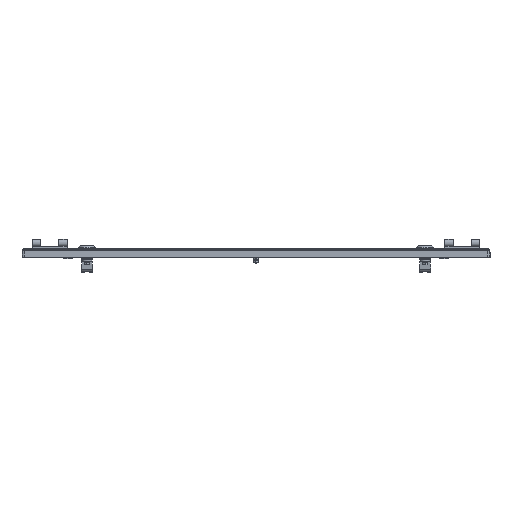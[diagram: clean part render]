
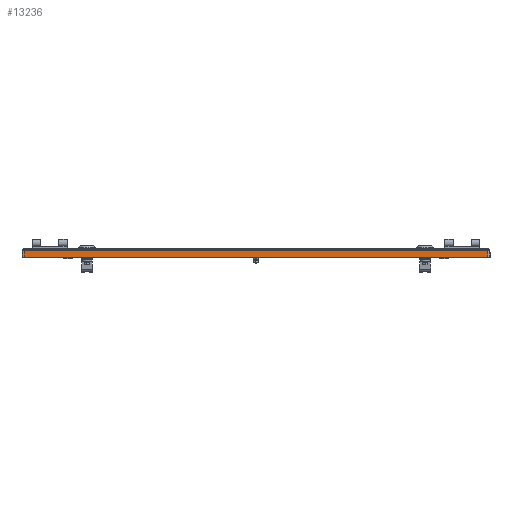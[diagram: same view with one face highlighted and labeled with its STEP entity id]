
A CAD part, left-side view. The second image highlights one B-rep face of the part: STEP entity #13236.
In plain terms, the highlighted planar face has unit normal (-1, 0, 0).
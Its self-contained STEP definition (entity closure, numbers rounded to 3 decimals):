
#459 = AXIS2_PLACEMENT_3D ( 'NONE', #22291, #22296, #22297 ) ;
#4090 = LINE ( 'NONE', #5293, #4096 ) ;
#4096 = VECTOR ( 'NONE', #5290, 1000. ) ;
#4108 = LINE ( 'NONE', #5317, #4111 ) ;
#4110 = LINE ( 'NONE', #5319, #4113 ) ;
#4111 = VECTOR ( 'NONE', #5318, 1000. ) ;
#4112 = LINE ( 'NONE', #5321, #4115 ) ;
#4113 = VECTOR ( 'NONE', #5320, 1000. ) ;
#4115 = VECTOR ( 'NONE', #5322, 1000. ) ;
#5290 = DIRECTION ( 'NONE',  ( 0., -1., 0. ) ) ;
#5293 = CARTESIAN_POINT ( 'NONE',  ( -392.5, 397., -15. ) ) ;
#5317 = CARTESIAN_POINT ( 'NONE',  ( -392.5, -393.5, -15. ) ) ;
#5318 = DIRECTION ( 'NONE',  ( 0., 0., 1. ) ) ;
#5319 = CARTESIAN_POINT ( 'NONE',  ( -392.5, 397., -3.5 ) ) ;
#5320 = DIRECTION ( 'NONE',  ( 0., 1., 0. ) ) ;
#5321 = CARTESIAN_POINT ( 'NONE',  ( -392.5, 393.5, -15. ) ) ;
#5322 = DIRECTION ( 'NONE',  ( 0., 0., -1. ) ) ;
#9340 = CARTESIAN_POINT ( 'NONE',  ( -392.5, 393.5, -15. ) ) ;
#9347 = CARTESIAN_POINT ( 'NONE',  ( -392.5, -393.5, -15. ) ) ;
#9355 = CARTESIAN_POINT ( 'NONE',  ( -392.5, -393.5, -3.5 ) ) ;
#9357 = CARTESIAN_POINT ( 'NONE',  ( -392.5, 393.5, -3.5 ) ) ;
#13236 = ADVANCED_FACE ( 'NONE', ( #22870 ), #22290, .T. ) ;
#13837 = EDGE_LOOP ( 'NONE', ( #18670, #18671, #18672, #18673 ) ) ;
#14286 = EDGE_CURVE ( 'NONE', #16512, #16519, #4090, .T. ) ;
#14295 = EDGE_CURVE ( 'NONE', #16519, #16527, #4108, .T. ) ;
#14296 = EDGE_CURVE ( 'NONE', #16527, #16529, #4110, .T. ) ;
#14297 = EDGE_CURVE ( 'NONE', #16529, #16512, #4112, .T. ) ;
#16512 = VERTEX_POINT ( 'NONE', #9340 ) ;
#16519 = VERTEX_POINT ( 'NONE', #9347 ) ;
#16527 = VERTEX_POINT ( 'NONE', #9355 ) ;
#16529 = VERTEX_POINT ( 'NONE', #9357 ) ;
#18670 = ORIENTED_EDGE ( 'NONE', *, *, #14286, .T. ) ;
#18671 = ORIENTED_EDGE ( 'NONE', *, *, #14295, .T. ) ;
#18672 = ORIENTED_EDGE ( 'NONE', *, *, #14296, .T. ) ;
#18673 = ORIENTED_EDGE ( 'NONE', *, *, #14297, .T. ) ;
#22290 = PLANE ( 'NONE',  #459 ) ;
#22291 = CARTESIAN_POINT ( 'NONE',  ( -392.5, 397., -15. ) ) ;
#22296 = DIRECTION ( 'NONE',  ( -1., 0., 0. ) ) ;
#22297 = DIRECTION ( 'NONE',  ( 0., -1., 0. ) ) ;
#22870 = FACE_OUTER_BOUND ( 'NONE', #13837, .T. ) ;
